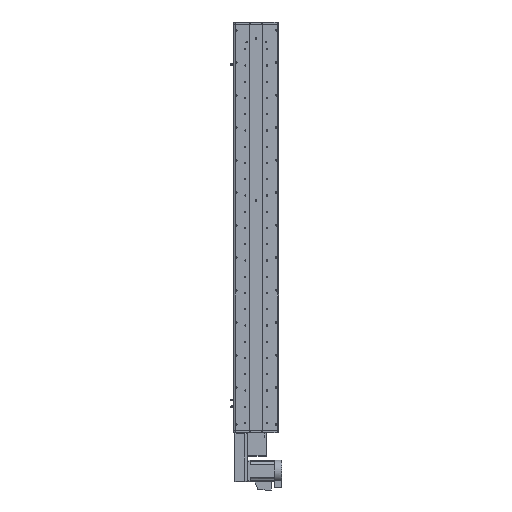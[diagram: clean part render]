
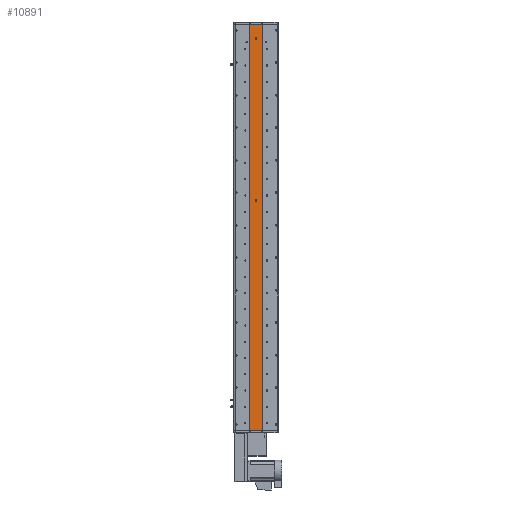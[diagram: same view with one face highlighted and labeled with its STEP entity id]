
A CAD part, front view. The second image highlights one B-rep face of the part: STEP entity #10891.
In plain terms, the highlighted planar face has unit normal (0, -1, 0).
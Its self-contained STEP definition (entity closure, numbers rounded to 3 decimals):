
#3155 = DIRECTION ( 'NONE',  ( 0., 0., -1. ) ) ;
#3389 = DIRECTION ( 'NONE',  ( 0., 0., -1. ) ) ;
#5149 = ORIENTED_EDGE ( 'NONE', *, *, #37310, .F. ) ;
#7068 = FACE_OUTER_BOUND ( 'NONE', #57162, .T. ) ;
#8039 = AXIS2_PLACEMENT_3D ( 'NONE', #65214, #34169, #3155 ) ;
#9464 = VECTOR ( 'NONE', #24430, 1000. ) ;
#10891 = ADVANCED_FACE ( 'NONE', ( #60562, #20915, #7068 ), #23343, .F. ) ;
#11001 = EDGE_CURVE ( 'NONE', #58020, #27416, #23283, .T. ) ;
#11237 = VERTEX_POINT ( 'NONE', #61327 ) ;
#11251 = CARTESIAN_POINT ( 'NONE',  ( 0., 1., 698.5 ) ) ;
#12094 = DIRECTION ( 'NONE',  ( 0., -1., 0. ) ) ;
#13318 = CIRCLE ( 'NONE', #8039, 3. ) ;
#13725 = CARTESIAN_POINT ( 'NONE',  ( 25., 1., 748.5 ) ) ;
#14004 = CARTESIAN_POINT ( 'NONE',  ( -25., 1., 748.5 ) ) ;
#16491 = DIRECTION ( 'NONE',  ( 0., 0., -1. ) ) ;
#17209 = CARTESIAN_POINT ( 'NONE',  ( 0., 1., 698.5 ) ) ;
#17592 = LINE ( 'NONE', #55081, #57304 ) ;
#18007 = CARTESIAN_POINT ( 'NONE',  ( 25., 1., 748.5 ) ) ;
#18117 = ORIENTED_EDGE ( 'NONE', *, *, #47121, .F. ) ;
#18215 = VERTEX_POINT ( 'NONE', #32091 ) ;
#19865 = EDGE_LOOP ( 'NONE', ( #18117, #5149 ) ) ;
#20915 = FACE_BOUND ( 'NONE', #46045, .T. ) ;
#22430 = DIRECTION ( 'NONE',  ( 0., 0., -1. ) ) ;
#23283 = LINE ( 'NONE', #14004, #9464 ) ;
#23343 = PLANE ( 'NONE',  #40836 ) ;
#24430 = DIRECTION ( 'NONE',  ( 0., 0., -1. ) ) ;
#27416 = VERTEX_POINT ( 'NONE', #39483 ) ;
#28410 = VECTOR ( 'NONE', #32172, 1000. ) ;
#28520 = DIRECTION ( 'NONE',  ( 0., 1., 0. ) ) ;
#28796 = VERTEX_POINT ( 'NONE', #18007 ) ;
#29248 = EDGE_CURVE ( 'NONE', #11237, #36977, #36754, .T. ) ;
#30659 = EDGE_CURVE ( 'NONE', #27416, #35594, #55982, .T. ) ;
#31179 = CIRCLE ( 'NONE', #45088, 3. ) ;
#31360 = ORIENTED_EDGE ( 'NONE', *, *, #29248, .F. ) ;
#32091 = CARTESIAN_POINT ( 'NONE',  ( 0., 1., 95.5 ) ) ;
#32172 = DIRECTION ( 'NONE',  ( 1., 0., 0. ) ) ;
#32442 = EDGE_CURVE ( 'NONE', #36977, #11237, #31179, .T. ) ;
#34169 = DIRECTION ( 'NONE',  ( 0., -1., 0. ) ) ;
#35594 = VERTEX_POINT ( 'NONE', #53632 ) ;
#36754 = CIRCLE ( 'NONE', #57169, 3. ) ;
#36977 = VERTEX_POINT ( 'NONE', #51759 ) ;
#37310 = EDGE_CURVE ( 'NONE', #46511, #18215, #13318, .T. ) ;
#38339 = LINE ( 'NONE', #13725, #50596 ) ;
#39483 = CARTESIAN_POINT ( 'NONE',  ( -25., 1., -748.5 ) ) ;
#39547 = DIRECTION ( 'NONE',  ( 1., 0., 0. ) ) ;
#40836 = AXIS2_PLACEMENT_3D ( 'NONE', #43723, #28520, #64749 ) ;
#43138 = CARTESIAN_POINT ( 'NONE',  ( 0., 1., 98.5 ) ) ;
#43199 = ORIENTED_EDGE ( 'NONE', *, *, #11001, .T. ) ;
#43723 = CARTESIAN_POINT ( 'NONE',  ( 25., 1., 748.5 ) ) ;
#45088 = AXIS2_PLACEMENT_3D ( 'NONE', #11251, #47575, #16491 ) ;
#46045 = EDGE_LOOP ( 'NONE', ( #63192, #31360 ) ) ;
#46511 = VERTEX_POINT ( 'NONE', #55689 ) ;
#47121 = EDGE_CURVE ( 'NONE', #18215, #46511, #62291, .T. ) ;
#47575 = DIRECTION ( 'NONE',  ( 0., -1., 0. ) ) ;
#47911 = EDGE_CURVE ( 'NONE', #28796, #35594, #17592, .T. ) ;
#48417 = DIRECTION ( 'NONE',  ( 0., 0., -1. ) ) ;
#50344 = CARTESIAN_POINT ( 'NONE',  ( -25., 1., 748.5 ) ) ;
#50385 = AXIS2_PLACEMENT_3D ( 'NONE', #43138, #12094, #48417 ) ;
#50596 = VECTOR ( 'NONE', #39547, 1000. ) ;
#51759 = CARTESIAN_POINT ( 'NONE',  ( 0., 1., 695.5 ) ) ;
#53066 = ORIENTED_EDGE ( 'NONE', *, *, #65793, .F. ) ;
#53491 = DIRECTION ( 'NONE',  ( 0., -1., 0. ) ) ;
#53632 = CARTESIAN_POINT ( 'NONE',  ( 25., 1., -748.5 ) ) ;
#55081 = CARTESIAN_POINT ( 'NONE',  ( 25., 1., 748.5 ) ) ;
#55689 = CARTESIAN_POINT ( 'NONE',  ( 0., 1., 101.5 ) ) ;
#55982 = LINE ( 'NONE', #63185, #28410 ) ;
#57162 = EDGE_LOOP ( 'NONE', ( #65040, #65262, #53066, #43199 ) ) ;
#57169 = AXIS2_PLACEMENT_3D ( 'NONE', #17209, #53491, #22430 ) ;
#57304 = VECTOR ( 'NONE', #3389, 1000. ) ;
#58020 = VERTEX_POINT ( 'NONE', #50344 ) ;
#60562 = FACE_BOUND ( 'NONE', #19865, .T. ) ;
#61327 = CARTESIAN_POINT ( 'NONE',  ( 0., 1., 701.5 ) ) ;
#62291 = CIRCLE ( 'NONE', #50385, 3. ) ;
#63185 = CARTESIAN_POINT ( 'NONE',  ( 25., 1., -748.5 ) ) ;
#63192 = ORIENTED_EDGE ( 'NONE', *, *, #32442, .F. ) ;
#64749 = DIRECTION ( 'NONE',  ( 0., 0., 1. ) ) ;
#65040 = ORIENTED_EDGE ( 'NONE', *, *, #30659, .T. ) ;
#65214 = CARTESIAN_POINT ( 'NONE',  ( 0., 1., 98.5 ) ) ;
#65262 = ORIENTED_EDGE ( 'NONE', *, *, #47911, .F. ) ;
#65793 = EDGE_CURVE ( 'NONE', #58020, #28796, #38339, .T. ) ;
